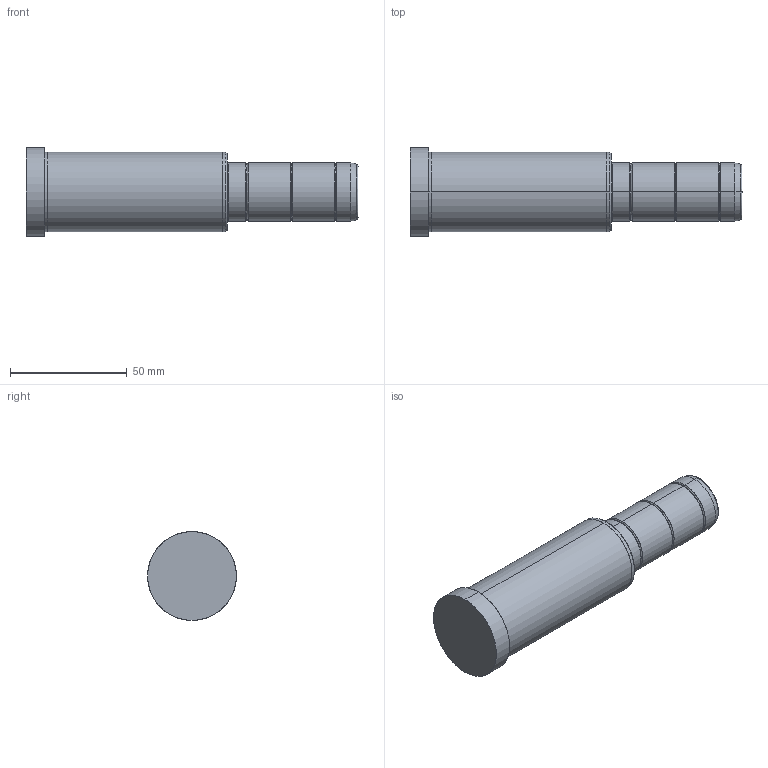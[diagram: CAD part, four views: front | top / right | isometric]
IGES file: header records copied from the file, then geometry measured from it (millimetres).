
Start section: SolidWorks IGES file using analytic representation for surfaces
Global section: file name: C:\Documents and Settings\kalite-mail\Desktop\IGS\D02\25\D02 - 25x86x56.IGS; native system: SolidWorks 2008; preprocessor: SolidWorks 2008; author: kalite-mail; date: 080617.084046; units: millimetre
Bounding box: 142 x 38 x 38 mm (x, y, z)
Surface area: 15959.1 mm2 (no closed solid volume)
Topology: 0 solids, 0 shells, 42 faces, 720 edges, 720 vertices
Faces by surface type: bspline 22, revolution 20
